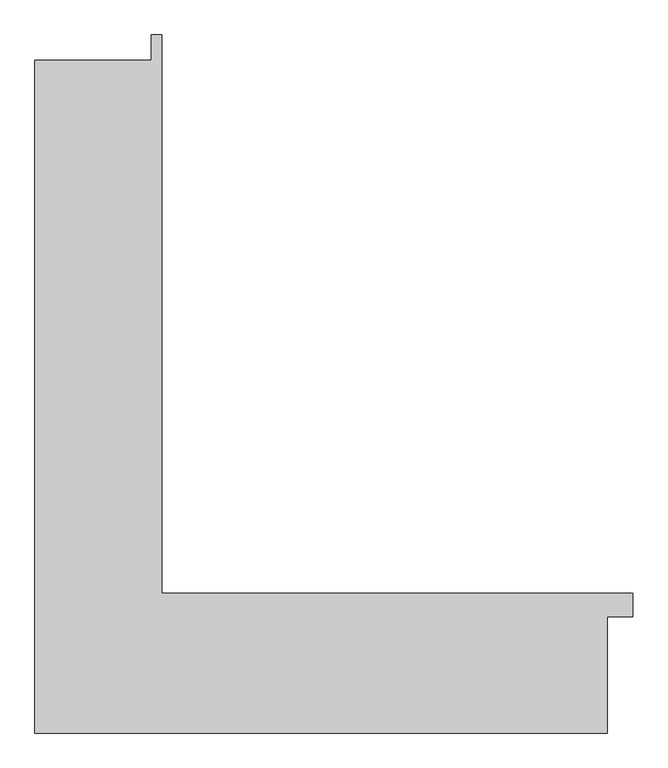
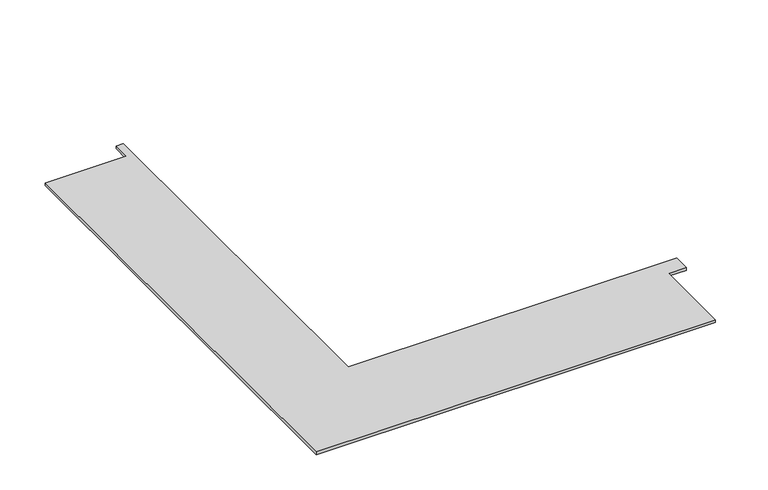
"""IFC4 building model written with IfcOpenShell, lengths in millimetres: furniture geometry, bASE b1 : bASE b1."""

from ifc_helpers import new_model, si_unit, frame, origin, place, context, project, spatial, polyline, outline, extrude, source, transform, mapped, element, save


def furniture_c9268803(model_context):
    return source(origin(), model_context, "Body", "SweptSolid", [
        extrude(outline(polyline([(-2692.3834094, -4787.0637549), (-2692.3834094, -4667.0637549), (-2642.3834094, -4667.0637549), (-2642.3834094, -7307.0637549), (-417.3834094, -7307.0637549), (-417.3834094, -7407.0637549), (-417.3834094, -7417.0637549), (-537.3834094, -7417.0637549), (-537.3834094, -7967.0637549), (-3242.3834094, -7967.0637549), (-3242.3834094, -4787.0637549), (-2692.3834094, -4787.0637549)])), frame((0.0, 0.0, 150.0), z_axis=(0.0, 0.0, 1.0), x_axis=(1.0, 0.0, 0.0)), (0.0, 0.0, 1.0), 20.0),
    ])


if __name__ == "__main__":
    model = new_model("IFC4")
    model_context = context("Model", 3, world=origin())
    ifc_project = project(units=[si_unit("LENGTHUNIT", "METRE", prefix="MILLI")], contexts=[model_context])
    site = spatial("IfcSite", under=ifc_project)
    building = spatial("IfcBuilding", under=site)
    placement = place(None, origin())
    furniture_shape = furniture_c9268803(model_context)
    element("IfcFurniture", 1, ObjectType="bASE b1 : bASE b1", at=placement, inside=building, context=model_context, shape_type="MappedRepresentation", body=[
        mapped(furniture_shape, transform((0.0, 0.0, 0.0), x_axis=(1.0, 0.0, 0.0), y_axis=(0.0, 1.0, 0.0), z_axis=(0.0, 0.0, 1.0))),
    ])
    save(model, "model.ifc")
